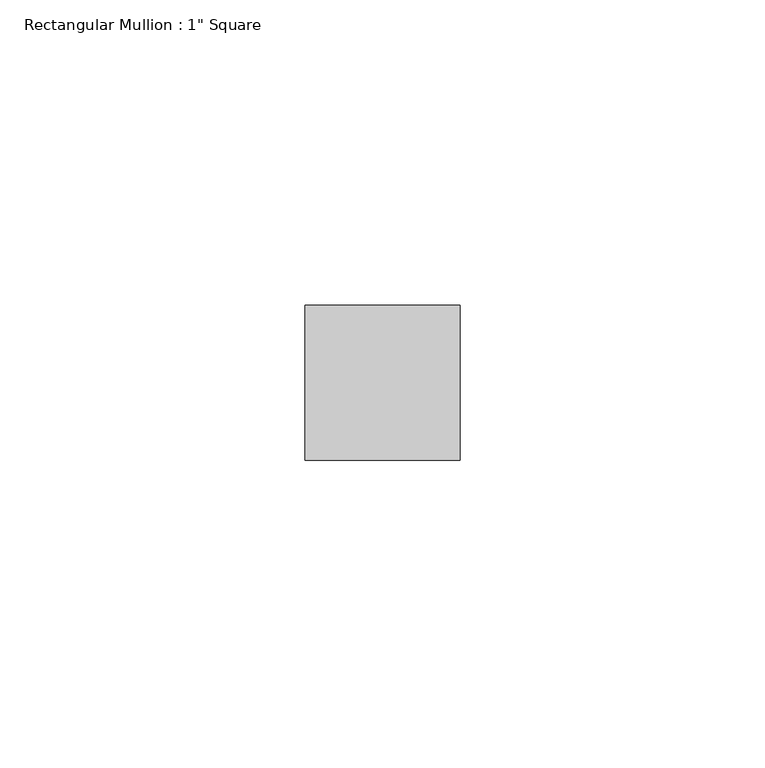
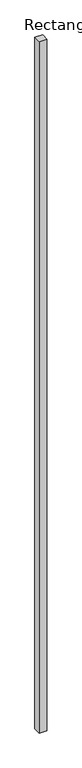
"""IFC4 building model written with IfcOpenShell, lengths in millimetres: member geometry."""

from ifc_helpers import new_model, si_unit, frame, origin, place, context, project, spatial, polyline, outline, extrude, source, transform, mapped, element, save


def member_bb4e90da(model_context):
    return source(origin(), model_context, "Body", "SweptSolid", [
        extrude(outline(polyline([(0.0, -19.05), (0.0, -44.45), (-25.4, -44.45), (-25.4, -19.05), (0.0, -19.05)])), frame((0.0, 0.0, -2438.4), z_axis=(0.0, 0.0, 1.0), x_axis=(1.0, 0.0, 0.0)), (0.0, 0.0, 1.0), 2438.4),
    ])


if __name__ == "__main__":
    model = new_model("IFC4")
    model_context = context("Model", 3, world=origin())
    ifc_project = project(units=[si_unit("LENGTHUNIT", "METRE", prefix="MILLI")], contexts=[model_context])
    site = spatial("IfcSite", under=ifc_project)
    building = spatial("IfcBuilding", under=site)
    placement = place(None, origin())
    member_shape = member_bb4e90da(model_context)
    element("IfcMember", 1, ObjectType="Rectangular Mullion : 1\" Square", at=placement, inside=building, context=model_context, shape_type="MappedRepresentation", body=[
        mapped(member_shape, transform((0.0, 0.0, 0.0), x_axis=(1.0, 0.0, 0.0), y_axis=(0.0, 1.0, 0.0), z_axis=(0.0, 0.0, 1.0))),
    ])
    save(model, "model.ifc")
